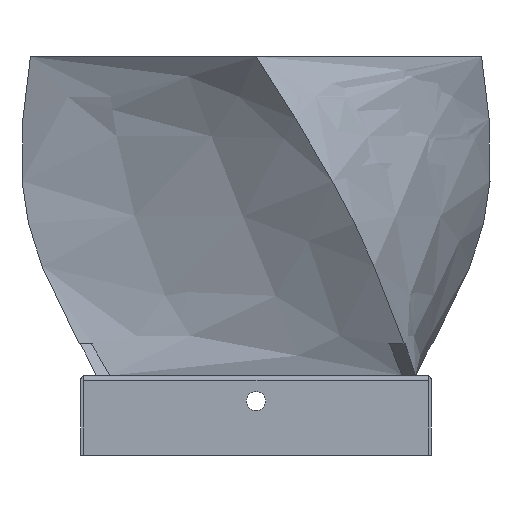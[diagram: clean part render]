
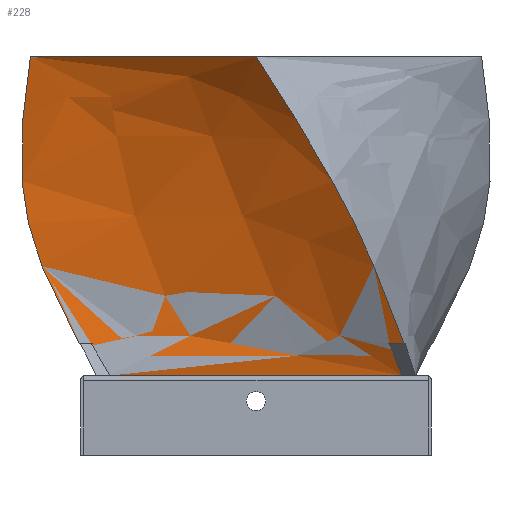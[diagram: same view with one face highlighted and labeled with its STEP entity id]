
A CAD part, left-side view. The second image highlights one B-rep face of the part: STEP entity #228.
In plain terms, the highlighted free-form (B-spline) face has degree [3, 3] with [4, 8] control points.
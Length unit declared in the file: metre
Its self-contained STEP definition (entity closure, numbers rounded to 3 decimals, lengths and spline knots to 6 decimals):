
#228 = ADVANCED_FACE( '', ( #373 ), #374, .T. );
#373 = FACE_OUTER_BOUND( '', #602, .T. );
#374 = B_SPLINE_SURFACE_WITH_KNOTS( '', 3, 3, ( ( #603, #604, #605, #606, #607, #608, #609, #610 ), ( #611, #612, #613, #614, #615, #616, #617, #618 ), ( #619, #620, #621, #622, #623, #624, #625, #626 ), ( #627, #628, #629, #630, #631, #632, #633, #634 ) ), .UNSPECIFIED., .F., .F., .F., ( 4, 4 ), ( 4, 3, 1, 4 ), ( 0., 1. ), ( -0.039123, 0., 0.5, 1. ), .UNSPECIFIED. );
#602 = EDGE_LOOP( '', ( #1216, #1217, #1218, #1219, #1220, #1221, #1222, #1223 ) );
#603 = CARTESIAN_POINT( '', ( -0.051397, 0.047839, -0.003912 ) );
#604 = CARTESIAN_POINT( '', ( -0.050931, 0.04856, -0.002608 ) );
#605 = CARTESIAN_POINT( '', ( -0.050466, 0.04928, -0.001304 ) );
#606 = CARTESIAN_POINT( '', ( -0.05, 0.05, 0. ) );
#607 = CARTESIAN_POINT( '', ( -0.04405, 0.059205, 0.016667 ) );
#608 = CARTESIAN_POINT( '', ( -0.032149, 0.077614, 0.05 ) );
#609 = CARTESIAN_POINT( '', ( -0.010716, 0.073012, 0.083333 ) );
#610 = CARTESIAN_POINT( '', ( 0., 0.070711, 0.1 ) );
#611 = CARTESIAN_POINT( '', ( -0.050211, 0.014761, -0.003912 ) );
#612 = CARTESIAN_POINT( '', ( -0.050141, 0.015396, -0.002608 ) );
#613 = CARTESIAN_POINT( '', ( -0.05007, 0.016031, -0.001304 ) );
#614 = CARTESIAN_POINT( '', ( -0.05, 0.016667, 0. ) );
#615 = CARTESIAN_POINT( '', ( -0.049101, 0.024787, 0.016667 ) );
#616 = CARTESIAN_POINT( '', ( -0.047304, 0.041026, 0.05 ) );
#617 = CARTESIAN_POINT( '', ( -0.031481, 0.045102, 0.083333 ) );
#618 = CARTESIAN_POINT( '', ( -0.02357, 0.04714, 0.1 ) );
#619 = CARTESIAN_POINT( '', ( -0.049025, -0.018318, -0.003912 ) );
#620 = CARTESIAN_POINT( '', ( -0.04935, -0.017768, -0.002608 ) );
#621 = CARTESIAN_POINT( '', ( -0.049675, -0.017217, -0.001304 ) );
#622 = CARTESIAN_POINT( '', ( -0.05, -0.016667, 0. ) );
#623 = CARTESIAN_POINT( '', ( -0.054153, -0.009632, 0.016667 ) );
#624 = CARTESIAN_POINT( '', ( -0.062459, 0.004439, 0.05 ) );
#625 = CARTESIAN_POINT( '', ( -0.052247, 0.017193, 0.083333 ) );
#626 = CARTESIAN_POINT( '', ( -0.04714, 0.02357, 0.1 ) );
#627 = CARTESIAN_POINT( '', ( -0.047839, -0.051397, -0.003912 ) );
#628 = CARTESIAN_POINT( '', ( -0.04856, -0.050931, -0.002608 ) );
#629 = CARTESIAN_POINT( '', ( -0.04928, -0.050466, -0.001304 ) );
#630 = CARTESIAN_POINT( '', ( -0.05, -0.05, 0. ) );
#631 = CARTESIAN_POINT( '', ( -0.059205, -0.04405, 0.016667 ) );
#632 = CARTESIAN_POINT( '', ( -0.077614, -0.032149, 0.05 ) );
#633 = CARTESIAN_POINT( '', ( -0.073012, -0.010716, 0.083333 ) );
#634 = CARTESIAN_POINT( '', ( -0.070711, 0., 0.1 ) );
#1216 = ORIENTED_EDGE( '', *, *, #1537, .T. );
#1217 = ORIENTED_EDGE( '', *, *, #1538, .T. );
#1218 = ORIENTED_EDGE( '', *, *, #1483, .T. );
#1219 = ORIENTED_EDGE( '', *, *, #1536, .T. );
#1220 = ORIENTED_EDGE( '', *, *, #1539, .T. );
#1221 = ORIENTED_EDGE( '', *, *, #1534, .T. );
#1222 = ORIENTED_EDGE( '', *, *, #1540, .F. );
#1223 = ORIENTED_EDGE( '', *, *, #1493, .F. );
#1483 = EDGE_CURVE( '', #1706, #1711, #1713, .T. );
#1493 = EDGE_CURVE( '', #1729, #1731, #1732, .T. );
#1534 = EDGE_CURVE( '', #1794, #1804, #1806, .T. );
#1536 = EDGE_CURVE( '', #1711, #1807, #1809, .T. );
#1537 = EDGE_CURVE( '', #1729, #1810, #1811, .T. );
#1538 = EDGE_CURVE( '', #1810, #1706, #1812, .T. );
#1539 = EDGE_CURVE( '', #1807, #1794, #1813, .T. );
#1540 = EDGE_CURVE( '', #1731, #1804, #1814, .T. );
#1706 = VERTEX_POINT( '', #2046 );
#1711 = VERTEX_POINT( '', #2057 );
#1713 = LINE( '', #2060, #2061 );
#1729 = VERTEX_POINT( '', #2094 );
#1731 = VERTEX_POINT( '', #2099 );
#1732 = B_SPLINE_CURVE_WITH_KNOTS( '', 3, ( #2100, #2101, #2102, #2103, #2104 ), .UNSPECIFIED., .F., .F., ( 4, 1, 4 ), ( 0.1, 0.5, 1. ), .UNSPECIFIED. );
#1794 = VERTEX_POINT( '', #2350 );
#1804 = VERTEX_POINT( '', #2376 );
#1806 = B_SPLINE_CURVE_WITH_KNOTS( '', 3, ( #2379, #2380, #2381, #2382, #2383 ), .UNSPECIFIED., .F., .F., ( 4, 1, 4 ), ( 0.1, 0.5, 1. ), .UNSPECIFIED. );
#1807 = VERTEX_POINT( '', #2384 );
#1809 = B_SPLINE_CURVE_WITH_KNOTS( '', 3, ( #2387, #2388, #2389, #2390 ), .UNSPECIFIED., .F., .F., ( 4, 4 ), ( 0., 0.011898 ), .UNSPECIFIED. );
#1810 = VERTEX_POINT( '', #2391 );
#1811 = B_SPLINE_CURVE_WITH_KNOTS( '', 3, ( #2392, #2393, #2394, #2395 ), .UNSPECIFIED., .F., .F., ( 4, 4 ), ( 0., 0.003866 ), .UNSPECIFIED. );
#1812 = B_SPLINE_CURVE_WITH_KNOTS( '', 3, ( #2396, #2397, #2398, #2399 ), .UNSPECIFIED., .F., .F., ( 4, 4 ), ( 0., 0.012022 ), .UNSPECIFIED. );
#1813 = B_SPLINE_CURVE_WITH_KNOTS( '', 3, ( #2400, #2401, #2402, #2403 ), .UNSPECIFIED., .F., .F., ( 4, 4 ), ( 0.049681, 0.054299 ), .UNSPECIFIED. );
#1814 = LINE( '', #2404, #2405 );
#2046 = CARTESIAN_POINT( '', ( -0.05, 0.045796, 0. ) );
#2057 = CARTESIAN_POINT( '', ( -0.05, -0.045797, 0. ) );
#2060 = CARTESIAN_POINT( '', ( -0.05, 0.05, 0. ) );
#2061 = VECTOR( '', #2620, 1. );
#2094 = CARTESIAN_POINT( '', ( -0.046411, 0.055477, 0.01 ) );
#2099 = CARTESIAN_POINT( '', ( 0., 0.070711, 0.1 ) );
#2100 = CARTESIAN_POINT( '', ( -0.046411, 0.055477, 0.01 ) );
#2101 = CARTESIAN_POINT( '', ( -0.041574, 0.062656, 0.023333 ) );
#2102 = CARTESIAN_POINT( '', ( -0.030005, 0.077154, 0.053333 ) );
#2103 = CARTESIAN_POINT( '', ( -0.010716, 0.073012, 0.083333 ) );
#2104 = CARTESIAN_POINT( '', ( 0., 0.070711, 0.1 ) );
#2350 = CARTESIAN_POINT( '', ( -0.055477, -0.046411, 0.01 ) );
#2376 = CARTESIAN_POINT( '', ( -0.070711, 0., 0.1 ) );
#2379 = CARTESIAN_POINT( '', ( -0.055477, -0.046411, 0.01 ) );
#2380 = CARTESIAN_POINT( '', ( -0.062656, -0.041574, 0.023333 ) );
#2381 = CARTESIAN_POINT( '', ( -0.077154, -0.030005, 0.053333 ) );
#2382 = CARTESIAN_POINT( '', ( -0.073012, -0.010716, 0.083333 ) );
#2383 = CARTESIAN_POINT( '', ( -0.070711, 0., 0.1 ) );
#2384 = CARTESIAN_POINT( '', ( -0.055067, -0.041811, 0.01 ) );
#2387 = CARTESIAN_POINT( '', ( -0.05, -0.045797, 0. ) );
#2388 = CARTESIAN_POINT( '', ( -0.051711, -0.044482, 0.003328 ) );
#2389 = CARTESIAN_POINT( '', ( -0.053414, -0.043161, 0.006658 ) );
#2390 = CARTESIAN_POINT( '', ( -0.055067, -0.041811, 0.01 ) );
#2391 = CARTESIAN_POINT( '', ( -0.046753, 0.051626, 0.01 ) );
#2392 = CARTESIAN_POINT( '', ( -0.046411, 0.055477, 0.01 ) );
#2393 = CARTESIAN_POINT( '', ( -0.046525, 0.054193, 0.01 ) );
#2394 = CARTESIAN_POINT( '', ( -0.046639, 0.052909, 0.01 ) );
#2395 = CARTESIAN_POINT( '', ( -0.046753, 0.051626, 0.01 ) );
#2396 = CARTESIAN_POINT( '', ( -0.046753, 0.051626, 0.01 ) );
#2397 = CARTESIAN_POINT( '', ( -0.047864, 0.049716, 0.006656 ) );
#2398 = CARTESIAN_POINT( '', ( -0.048939, 0.047761, 0.003327 ) );
#2399 = CARTESIAN_POINT( '', ( -0.05, 0.045796, 0. ) );
#2400 = CARTESIAN_POINT( '', ( -0.055067, -0.041811, 0.01 ) );
#2401 = CARTESIAN_POINT( '', ( -0.055204, -0.043344, 0.01 ) );
#2402 = CARTESIAN_POINT( '', ( -0.05534, -0.044877, 0.01 ) );
#2403 = CARTESIAN_POINT( '', ( -0.055477, -0.046411, 0.01 ) );
#2404 = CARTESIAN_POINT( '', ( 0., 0.070711, 0.1 ) );
#2405 = VECTOR( '', #2646, 1. );
#2620 = DIRECTION( '', ( 0., -1., 0. ) );
#2646 = DIRECTION( '', ( -0.707, -0.707, 0. ) );
